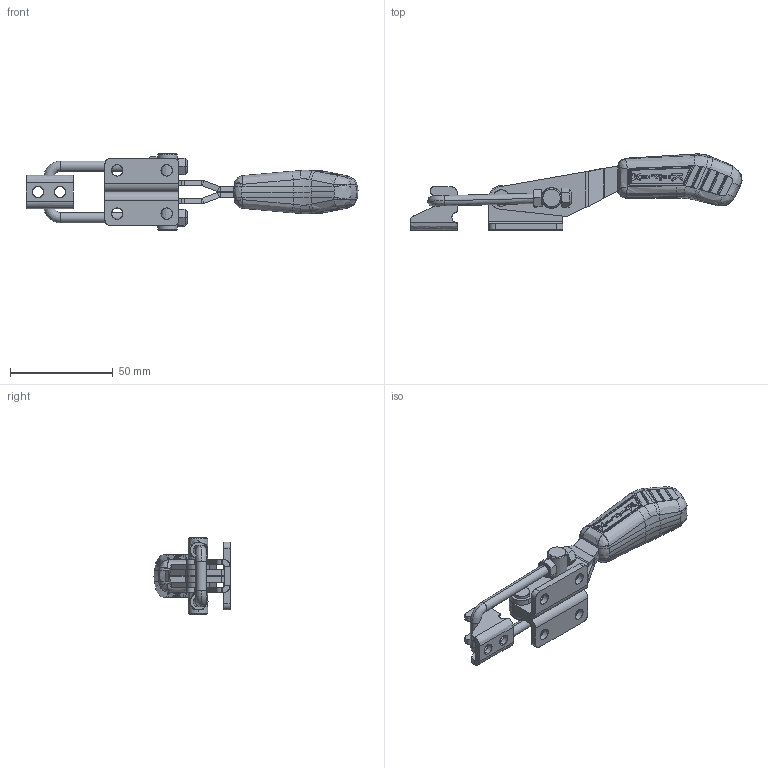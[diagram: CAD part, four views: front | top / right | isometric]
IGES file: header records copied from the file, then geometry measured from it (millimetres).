
Start section: SolidWorks IGES file using analytic representation for surfaces
Global section: file name: C:\Projetos\Grampos\KF-743\KF-743 D\KF-743 D.IGS; native system: SolidWorks 2013; preprocessor: SolidWorks 2013; author: Ricardo; date: 140820.170936; units: millimetre
Bounding box: 161.44 x 36.99 x 37 mm (x, y, z)
Surface area: 25421.3 mm2 (no closed solid volume)
Topology: 0 solids, 0 shells, 918 faces, 9061 edges, 9005 vertices
Faces by surface type: bspline 530, revolution 388
